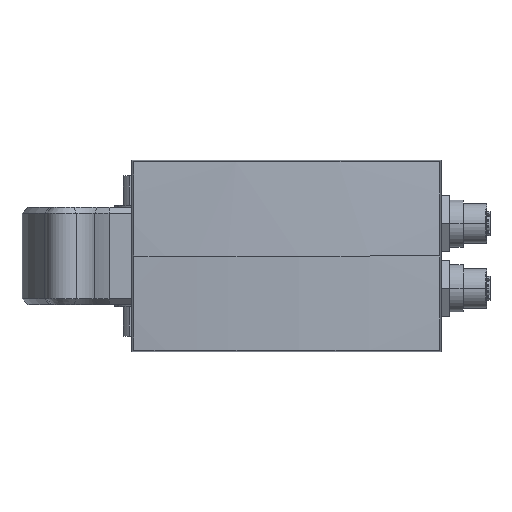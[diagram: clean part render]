
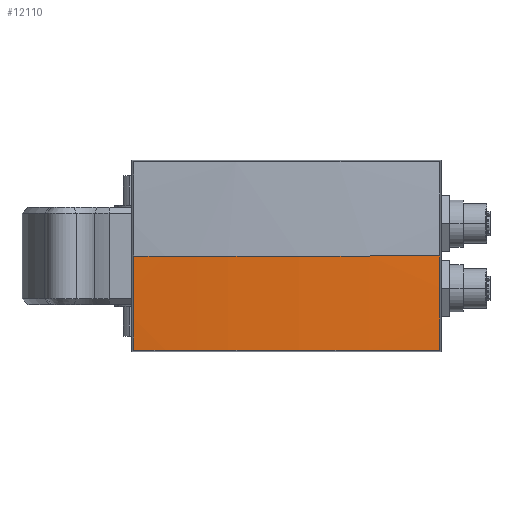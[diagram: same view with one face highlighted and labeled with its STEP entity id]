
A CAD part, front view. The second image highlights one B-rep face of the part: STEP entity #12110.
In plain terms, the highlighted spherical face has radius 619 mm.
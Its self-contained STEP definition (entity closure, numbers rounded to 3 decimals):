
#7724=CARTESIAN_POINT('',(27.5,350.632,-53.501));
#7725=DIRECTION('',(0.,-0.035,-0.999));
#7726=DIRECTION('',(0.,-0.999,0.035));
#7727=AXIS2_PLACEMENT_3D('',#7724,#7725,#7726);
#7746=CARTESIAN_POINT('',(120.839,349.241,0.));
#7747=DIRECTION('',(-0.999,0.035,0.));
#7748=DIRECTION('',(-0.035,-0.998,-0.053));
#7749=AXIS2_PLACEMENT_3D('',#7746,#7747,#7748);
#7754=CARTESIAN_POINT('',(27.5,350.632,-53.501));
#7755=DIRECTION('',(0.,0.035,0.999));
#7756=DIRECTION('',(0.,-0.999,0.035));
#7757=AXIS2_PLACEMENT_3D('',#7754,#7755,#7756);
#7762=CARTESIAN_POINT('',(-26.001,350.632,0.));
#7763=DIRECTION('',(0.999,0.035,0.));
#7764=DIRECTION('',(0.035,-0.999,0.));
#7765=AXIS2_PLACEMENT_3D('',#7762,#7763,#7764);
#7770=CARTESIAN_POINT('',(27.5,352.5,0.));
#7771=DIRECTION('',(0.,0.,1.));
#7772=DIRECTION('',(-0.052,-0.999,0.));
#7773=AXIS2_PLACEMENT_3D('',#7770,#7771,#7772);
#7802=CARTESIAN_POINT('',(27.5,352.5,0.));
#7803=DIRECTION('',(0.,0.,1.));
#7804=DIRECTION('',(0.,-1.,0.));
#7805=AXIS2_PLACEMENT_3D('',#7802,#7803,#7804);
#11161=CARTESIAN_POINT('',(-4.479,-265.673,
0.));
#11163=VERTEX_POINT('',#11161);
#11194=CARTESIAN_POINT('',(99.513,-261.457,
-32.126));
#11195=CARTESIAN_POINT('',(99.483,-262.3,
0.));
#11196=VERTEX_POINT('',#11194);
#11197=VERTEX_POINT('',#11195);
#11509=CARTESIAN_POINT('',(27.5,-265.673,
-31.979));
#11510=VERTEX_POINT('',#11509);
#11511=CARTESIAN_POINT('',(-4.508,-264.843,
-32.008));
#11512=VERTEX_POINT('',#11511);
#11537=CARTESIAN_POINT('',(27.5,-266.5,0.));
#11538=VERTEX_POINT('',#11537);
#12095=CARTESIAN_POINT('',(27.5,352.5,0.));
#12096=DIRECTION('',(0.,0.,1.));
#12097=DIRECTION('',(0.,-1.,0.));
#12098=AXIS2_PLACEMENT_3D('',#12095,#12096,#12097);
#12099=SPHERICAL_SURFACE('',#12098,619.);
#12100=ORIENTED_EDGE('',*,*,#12088,.F.);
#12101=ORIENTED_EDGE('',*,*,#12075,.F.);
#12102=ORIENTED_EDGE('',*,*,#12073,.T.);
#12103=ORIENTED_EDGE('',*,*,#12059,.F.);
#12105=ORIENTED_EDGE('',*,*,#12104,.T.);
#12107=ORIENTED_EDGE('',*,*,#12106,.T.);
#12108=EDGE_LOOP('',(#12100,#12101,#12102,#12103,#12105,#12107));
#12109=FACE_OUTER_BOUND('',#12108,.F.);
#7728=CIRCLE('',#7727,616.681);
#7750=CIRCLE('',#7749,611.914);
#7758=CIRCLE('',#7757,616.681);
#7766=CIRCLE('',#7765,616.681);
#7774=CIRCLE('',#7773,619.);
#7806=CIRCLE('',#7805,619.);
#12059=EDGE_CURVE('',#11163,#11512,#7766,.T.);
#12073=EDGE_CURVE('',#11510,#11512,#7728,.T.);
#12075=EDGE_CURVE('',#11510,#11196,#7758,.T.);
#12088=EDGE_CURVE('',#11196,#11197,#7750,.T.);
#12104=EDGE_CURVE('',#11163,#11538,#7774,.T.);
#12106=EDGE_CURVE('',#11538,#11197,#7806,.T.);
#12110=ADVANCED_FACE('',(#12109),#12099,.T.);
